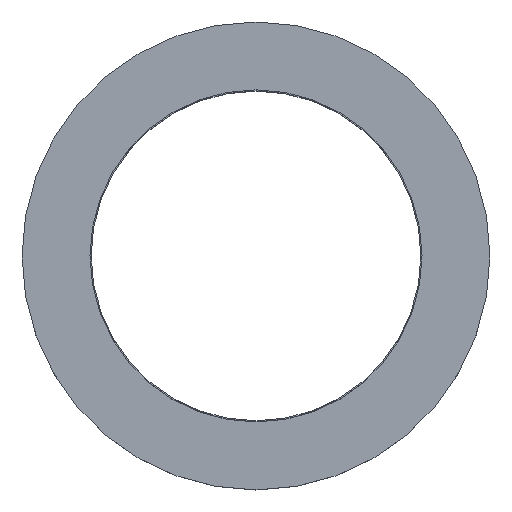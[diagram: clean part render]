
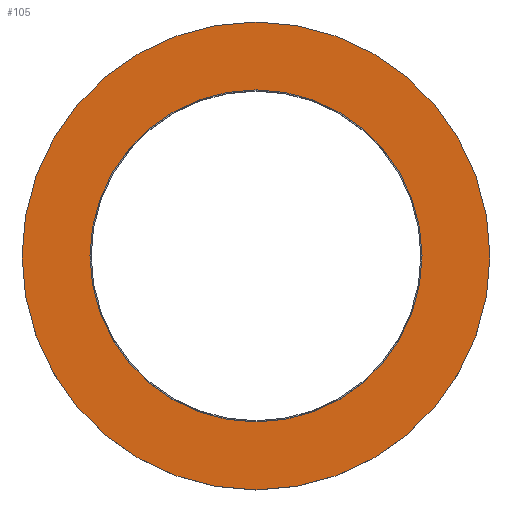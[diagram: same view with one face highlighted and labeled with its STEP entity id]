
A CAD part, top view. The second image highlights one B-rep face of the part: STEP entity #105.
In plain terms, the highlighted planar face has unit normal (0, 0, 1).
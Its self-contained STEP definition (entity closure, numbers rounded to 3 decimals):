
#21 = EDGE_CURVE('',#22,#22,#24,.T.);
#22 = VERTEX_POINT('',#23);
#23 = CARTESIAN_POINT('',(21.,0.,0.));
#24 = SURFACE_CURVE('',#25,(#30,#42),.PCURVE_S1.);
#25 = CIRCLE('',#26,21.);
#26 = AXIS2_PLACEMENT_3D('',#27,#28,#29);
#27 = CARTESIAN_POINT('',(0.,0.,0.));
#28 = DIRECTION('',(0.,0.,1.));
#29 = DIRECTION('',(1.,0.,-0.));
#30 = PCURVE('',#31,#36);
#31 = CYLINDRICAL_SURFACE('',#32,21.);
#32 = AXIS2_PLACEMENT_3D('',#33,#34,#35);
#33 = CARTESIAN_POINT('',(0.,0.,-4.));
#34 = DIRECTION('',(0.,0.,1.));
#35 = DIRECTION('',(1.,0.,-0.));
#36 = DEFINITIONAL_REPRESENTATION('',(#37),#41);
#37 = LINE('',#38,#39);
#38 = CARTESIAN_POINT('',(0.,4.));
#39 = VECTOR('',#40,1.);
#40 = DIRECTION('',(1.,0.));
#41 = ( GEOMETRIC_REPRESENTATION_CONTEXT(2) 
PARAMETRIC_REPRESENTATION_CONTEXT() REPRESENTATION_CONTEXT('2D SPACE',''
  ) );
#42 = PCURVE('',#43,#48);
#43 = PLANE('',#44);
#44 = AXIS2_PLACEMENT_3D('',#45,#46,#47);
#45 = CARTESIAN_POINT('',(0.,0.,0.));
#46 = DIRECTION('',(0.,0.,1.));
#47 = DIRECTION('',(1.,0.,-0.));
#48 = DEFINITIONAL_REPRESENTATION('',(#49),#53);
#49 = CIRCLE('',#50,21.);
#50 = AXIS2_PLACEMENT_2D('',#51,#52);
#51 = CARTESIAN_POINT('',(0.,0.));
#52 = DIRECTION('',(1.,0.));
#53 = ( GEOMETRIC_REPRESENTATION_CONTEXT(2) 
PARAMETRIC_REPRESENTATION_CONTEXT() REPRESENTATION_CONTEXT('2D SPACE',''
  ) );
#105 = ADVANCED_FACE('',(#106,#109),#43,.T.);
#106 = FACE_BOUND('',#107,.T.);
#107 = EDGE_LOOP('',(#108));
#108 = ORIENTED_EDGE('',*,*,#21,.T.);
#109 = FACE_BOUND('',#110,.T.);
#110 = EDGE_LOOP('',(#111));
#111 = ORIENTED_EDGE('',*,*,#112,.F.);
#112 = EDGE_CURVE('',#113,#113,#115,.T.);
#113 = VERTEX_POINT('',#114);
#114 = CARTESIAN_POINT('',(14.9,0.,0.));
#115 = SURFACE_CURVE('',#116,(#121,#128),.PCURVE_S1.);
#116 = CIRCLE('',#117,14.9);
#117 = AXIS2_PLACEMENT_3D('',#118,#119,#120);
#118 = CARTESIAN_POINT('',(0.,0.,0.));
#119 = DIRECTION('',(0.,0.,1.));
#120 = DIRECTION('',(1.,0.,-0.));
#121 = PCURVE('',#43,#122);
#122 = DEFINITIONAL_REPRESENTATION('',(#123),#127);
#123 = CIRCLE('',#124,14.9);
#124 = AXIS2_PLACEMENT_2D('',#125,#126);
#125 = CARTESIAN_POINT('',(0.,0.));
#126 = DIRECTION('',(1.,0.));
#127 = ( GEOMETRIC_REPRESENTATION_CONTEXT(2) 
PARAMETRIC_REPRESENTATION_CONTEXT() REPRESENTATION_CONTEXT('2D SPACE',''
  ) );
#128 = PCURVE('',#129,#134);
#129 = CYLINDRICAL_SURFACE('',#130,14.9);
#130 = AXIS2_PLACEMENT_3D('',#131,#132,#133);
#131 = CARTESIAN_POINT('',(0.,0.,0.));
#132 = DIRECTION('',(0.,0.,1.));
#133 = DIRECTION('',(1.,0.,-0.));
#134 = DEFINITIONAL_REPRESENTATION('',(#135),#139);
#135 = LINE('',#136,#137);
#136 = CARTESIAN_POINT('',(0.,0.));
#137 = VECTOR('',#138,1.);
#138 = DIRECTION('',(1.,0.));
#139 = ( GEOMETRIC_REPRESENTATION_CONTEXT(2) 
PARAMETRIC_REPRESENTATION_CONTEXT() REPRESENTATION_CONTEXT('2D SPACE',''
  ) );
